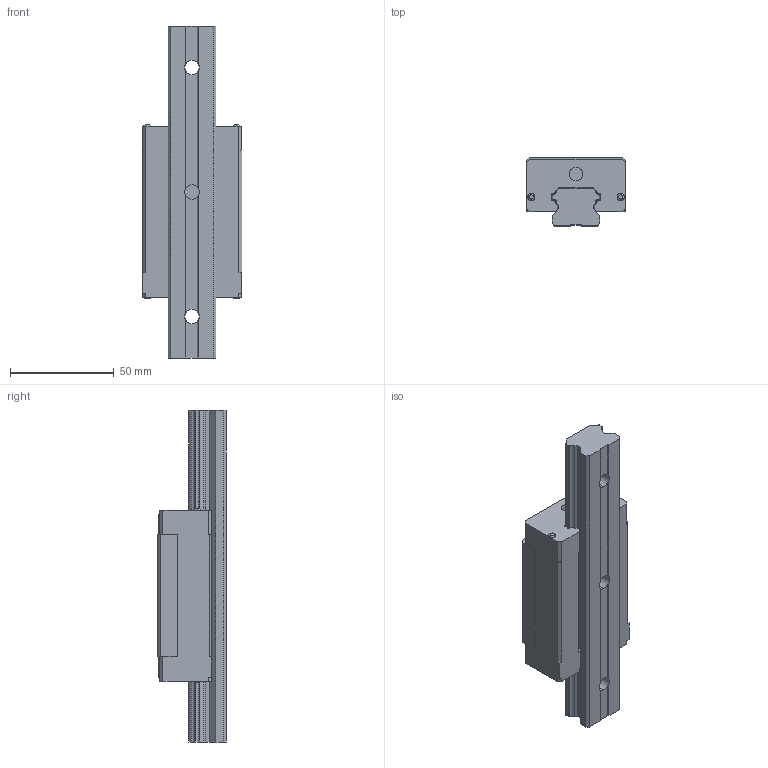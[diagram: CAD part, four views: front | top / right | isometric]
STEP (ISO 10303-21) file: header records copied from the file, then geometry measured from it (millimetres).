
FILE_DESCRIPTION (( 'STEP AP214' ), '1' );
FILE_NAME ('2.1046 Lineaarikelkka EGH25CA.STEP', '2025-09-19T06:21:33', ( '' ), ( '' ), 'SwSTEP 2.0', 'SolidWorks 2025', '' );
FILE_SCHEMA (( 'AUTOMOTIVE_DESIGN' ));
Length unit declared in the file: millimetre
Products named in the file (1): 2.1046 Lineaarikelkka EGH25CA
Bounding box: 48 x 33 x 160 mm (x, y, z)
Volume: 127384.4 mm3; surface area: 33432.7 mm2
Topology: 2 solids, 2 shells, 203 faces, 582 edges, 389 vertices
Faces by surface type: plane 131, cylinder 64, bspline 8
Entity records: 9068 total; most frequent: CARTESIAN_POINT 1442, ORIENTED_EDGE 1156, DIRECTION 1094, EDGE_CURVE 578, LINE 390, VECTOR 390, VERTEX_POINT 389, AXIS2_PLACEMENT_3D 352
